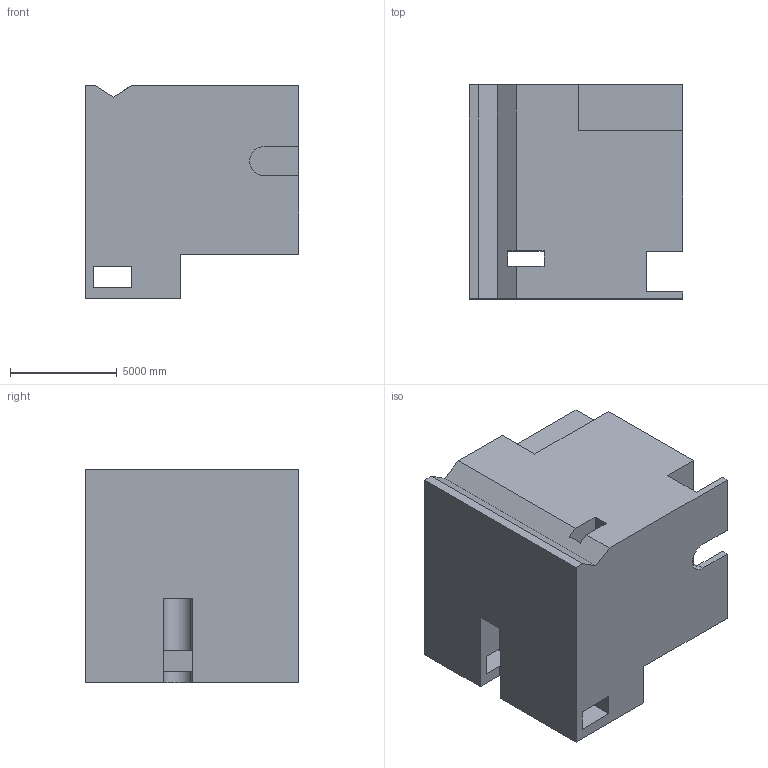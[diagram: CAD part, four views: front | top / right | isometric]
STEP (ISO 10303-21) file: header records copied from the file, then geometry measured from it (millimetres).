
FILE_DESCRIPTION (( 'STEP AP203' ), '1' );
FILE_NAME ('74.STEP', '2022-08-30T14:23:00', ( 'user' ), ( '' ), 'SwSTEP 2.0', 'SolidWorks 2021', '' );
FILE_SCHEMA (( 'CONFIG_CONTROL_DESIGN' ));
Length unit declared in the file: centimetre
Products named in the file (1): 74
Bounding box: 10000 x 10000 x 10000 mm (x, y, z)
Volume: 777611591657.1 mm3; surface area: 704520128.2 mm2
Topology: 1 solids, 1 shells, 44 faces, 141 edges, 94 vertices
Faces by surface type: plane 41, cylinder 3
Entity records: 1628 total; most frequent: ORIENTED_EDGE 282, CARTESIAN_POINT 280, DIRECTION 241, EDGE_CURVE 141, VECTOR 131, LINE 131, VERTEX_POINT 94, AXIS2_PLACEMENT_3D 55
